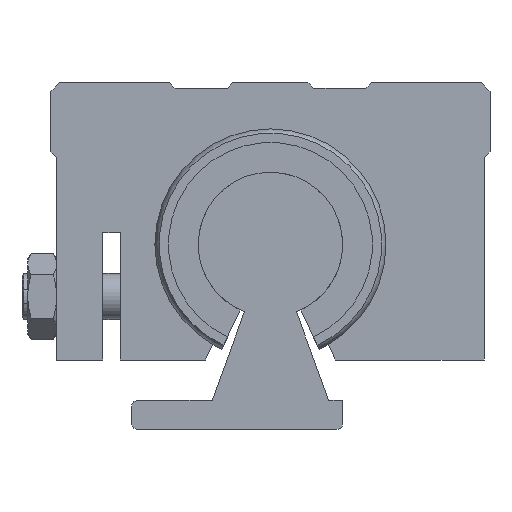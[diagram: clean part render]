
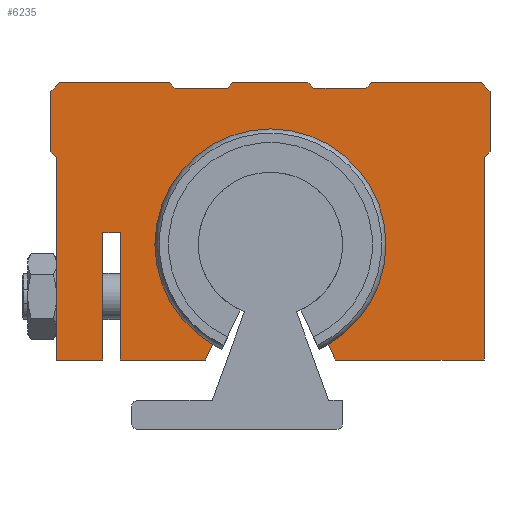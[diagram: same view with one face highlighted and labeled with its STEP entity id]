
A CAD part, left-side view. The second image highlights one B-rep face of the part: STEP entity #6235.
In plain terms, the highlighted planar face has unit normal (-1, 0, 0).
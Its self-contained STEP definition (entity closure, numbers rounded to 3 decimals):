
#4988=CARTESIAN_POINT('',(257.366,-10.0,14.679));
#4989=VERTEX_POINT('',#4988);
#4996=CARTESIAN_POINT('',(257.366,10.0,14.679));
#4997=VERTEX_POINT('',#4996);
#4998=CARTESIAN_POINT('',(257.366,0.0,32.0));
#4999=DIRECTION('',(-1.0,0.0,0.0));
#5000=DIRECTION('',(0.0,-1.0,0.0));
#5001=AXIS2_PLACEMENT_3D('',#4998,#4999,#5000);
#5002=CIRCLE('',#5001,20.0);
#5003=EDGE_CURVE('',#4989,#4997,#5002,.T.);
#5095=CARTESIAN_POINT('',(257.366,-6.5,60.0));
#5096=VERTEX_POINT('',#5095);
#5097=CARTESIAN_POINT('',(257.366,-7.5,59.));
#5098=VERTEX_POINT('',#5097);
#5099=CARTESIAN_POINT('',(257.366,-6.5,60.0));
#5100=DIRECTION('',(0.0,-0.707,-0.707));
#5101=VECTOR('',#5100,1.414);
#5102=LINE('',#5099,#5101);
#5103=EDGE_CURVE('',#5096,#5098,#5102,.T.);
#5136=CARTESIAN_POINT('',(257.366,-16.5,59.));
#5137=VERTEX_POINT('',#5136);
#5138=CARTESIAN_POINT('',(257.366,-7.5,59.));
#5139=DIRECTION('',(0.0,-1.0,0.0));
#5140=VECTOR('',#5139,9.);
#5141=LINE('',#5138,#5140);
#5142=EDGE_CURVE('',#5098,#5137,#5141,.T.);
#5166=CARTESIAN_POINT('',(257.366,17.5,60.0));
#5167=VERTEX_POINT('',#5166);
#5168=CARTESIAN_POINT('',(257.366,16.5,59.));
#5169=VERTEX_POINT('',#5168);
#5170=CARTESIAN_POINT('',(257.366,17.5,60.0));
#5171=DIRECTION('',(0.0,-0.707,-0.707));
#5172=VECTOR('',#5171,1.414);
#5173=LINE('',#5170,#5172);
#5174=EDGE_CURVE('',#5167,#5169,#5173,.T.);
#5207=CARTESIAN_POINT('',(257.366,7.5,59.));
#5208=VERTEX_POINT('',#5207);
#5209=CARTESIAN_POINT('',(257.366,16.5,59.));
#5210=DIRECTION('',(0.0,-1.0,0.0));
#5211=VECTOR('',#5210,9.0);
#5212=LINE('',#5209,#5211);
#5213=EDGE_CURVE('',#5169,#5208,#5212,.T.);
#5237=CARTESIAN_POINT('',(257.366,6.5,60.0));
#5238=VERTEX_POINT('',#5237);
#5239=CARTESIAN_POINT('',(257.366,7.5,59.));
#5240=DIRECTION('',(0.0,-0.707,0.707));
#5241=VECTOR('',#5240,1.414);
#5242=LINE('',#5239,#5241);
#5243=EDGE_CURVE('',#5208,#5238,#5242,.T.);
#5268=CARTESIAN_POINT('',(257.366,-17.5,60.0));
#5269=VERTEX_POINT('',#5268);
#5270=CARTESIAN_POINT('',(257.366,-16.5,59.));
#5271=DIRECTION('',(0.0,-0.707,0.707));
#5272=VECTOR('',#5271,1.414);
#5273=LINE('',#5270,#5272);
#5274=EDGE_CURVE('',#5137,#5269,#5273,.T.);
#5299=CARTESIAN_POINT('',(257.366,37.0,47.0));
#5300=VERTEX_POINT('',#5299);
#5301=CARTESIAN_POINT('',(257.366,38.0,48.));
#5302=VERTEX_POINT('',#5301);
#5303=CARTESIAN_POINT('',(257.366,37.0,47.0));
#5304=DIRECTION('',(0.0,0.707,0.707));
#5305=VECTOR('',#5304,1.414);
#5306=LINE('',#5303,#5305);
#5307=EDGE_CURVE('',#5300,#5302,#5306,.T.);
#5339=CARTESIAN_POINT('',(257.366,-38.0,48.));
#5340=VERTEX_POINT('',#5339);
#5341=CARTESIAN_POINT('',(257.366,-37.0,47.0));
#5342=VERTEX_POINT('',#5341);
#5343=CARTESIAN_POINT('',(257.366,-38.0,48.));
#5344=DIRECTION('',(0.0,0.707,-0.707));
#5345=VECTOR('',#5344,1.414);
#5346=LINE('',#5343,#5345);
#5347=EDGE_CURVE('',#5340,#5342,#5346,.T.);
#5380=CARTESIAN_POINT('',(257.366,-37.0,12.));
#5381=VERTEX_POINT('',#5380);
#5382=CARTESIAN_POINT('',(257.366,-37.0,47.0));
#5383=DIRECTION('',(0.0,0.0,-1.0));
#5384=VECTOR('',#5383,35.);
#5385=LINE('',#5382,#5384);
#5386=EDGE_CURVE('',#5342,#5381,#5385,.T.);
#5420=CARTESIAN_POINT('',(257.366,38.0,58.5));
#5421=VERTEX_POINT('',#5420);
#5428=CARTESIAN_POINT('',(257.366,36.5,60.0));
#5429=VERTEX_POINT('',#5428);
#5430=CARTESIAN_POINT('',(257.366,38.0,58.5));
#5431=DIRECTION('',(0.0,-0.707,0.707));
#5432=VECTOR('',#5431,2.121);
#5433=LINE('',#5430,#5432);
#5434=EDGE_CURVE('',#5421,#5429,#5433,.T.);
#5458=CARTESIAN_POINT('',(257.366,38.0,48.));
#5459=DIRECTION('',(0.0,0.0,1.0));
#5460=VECTOR('',#5459,10.5);
#5461=LINE('',#5458,#5460);
#5462=EDGE_CURVE('',#5302,#5421,#5461,.T.);
#5595=CARTESIAN_POINT('',(257.366,-36.5,60.0));
#5596=VERTEX_POINT('',#5595);
#5603=CARTESIAN_POINT('',(257.366,-38.0,58.5));
#5604=VERTEX_POINT('',#5603);
#5605=CARTESIAN_POINT('',(257.366,-36.5,60.0));
#5606=DIRECTION('',(0.0,-0.707,-0.707));
#5607=VECTOR('',#5606,2.121);
#5608=LINE('',#5605,#5607);
#5609=EDGE_CURVE('',#5596,#5604,#5608,.T.);
#5628=CARTESIAN_POINT('',(257.366,-17.5,60.0));
#5629=DIRECTION('',(0.0,-1.0,0.0));
#5630=VECTOR('',#5629,19.);
#5631=LINE('',#5628,#5630);
#5632=EDGE_CURVE('',#5269,#5596,#5631,.T.);
#5966=CARTESIAN_POINT('',(257.366,37.0,12.));
#5967=VERTEX_POINT('',#5966);
#5974=CARTESIAN_POINT('',(257.366,37.0,12.));
#5975=DIRECTION('',(0.0,0.0,1.0));
#5976=VECTOR('',#5975,35.);
#5977=LINE('',#5974,#5976);
#5978=EDGE_CURVE('',#5967,#5300,#5977,.T.);
#5997=CARTESIAN_POINT('',(257.366,29.,12.));
#5998=VERTEX_POINT('',#5997);
#6005=CARTESIAN_POINT('',(257.366,29.,12.));
#6006=DIRECTION('',(0.0,1.0,0.0));
#6007=VECTOR('',#6006,8.);
#6008=LINE('',#6005,#6007);
#6009=EDGE_CURVE('',#5998,#5967,#6008,.T.);
#6021=CARTESIAN_POINT('',(257.366,29.,34.));
#6022=VERTEX_POINT('',#6021);
#6029=CARTESIAN_POINT('',(257.366,29.,34.));
#6030=DIRECTION('',(0.0,0.0,-1.0));
#6031=VECTOR('',#6030,22.);
#6032=LINE('',#6029,#6031);
#6033=EDGE_CURVE('',#6022,#5998,#6032,.T.);
#6048=CARTESIAN_POINT('',(257.366,26.,34.));
#6049=VERTEX_POINT('',#6048);
#6056=CARTESIAN_POINT('',(257.366,26.,34.));
#6057=DIRECTION('',(0.0,1.0,0.0));
#6058=VECTOR('',#6057,3.);
#6059=LINE('',#6056,#6058);
#6060=EDGE_CURVE('',#6049,#6022,#6059,.T.);
#6072=CARTESIAN_POINT('',(257.366,26.,12.));
#6073=VERTEX_POINT('',#6072);
#6080=CARTESIAN_POINT('',(257.366,26.,12.));
#6081=DIRECTION('',(0.0,0.0,1.0));
#6082=VECTOR('',#6081,22.);
#6083=LINE('',#6080,#6082);
#6084=EDGE_CURVE('',#6073,#6049,#6083,.T.);
#6099=CARTESIAN_POINT('',(257.366,11.249,12.));
#6100=VERTEX_POINT('',#6099);
#6107=CARTESIAN_POINT('',(257.366,11.249,12.));
#6108=DIRECTION('',(0.0,1.0,0.0));
#6109=VECTOR('',#6108,14.751);
#6110=LINE('',#6107,#6109);
#6111=EDGE_CURVE('',#6100,#6073,#6110,.T.);
#6130=CARTESIAN_POINT('',(257.366,10.0,14.679));
#6131=DIRECTION('',(0.0,0.423,-0.906));
#6132=VECTOR('',#6131,2.956);
#6133=LINE('',#6130,#6132);
#6134=EDGE_CURVE('',#4997,#6100,#6133,.T.);
#6146=CARTESIAN_POINT('',(257.366,-11.249,12.));
#6147=VERTEX_POINT('',#6146);
#6154=CARTESIAN_POINT('',(257.366,-11.249,12.));
#6155=DIRECTION('',(0.0,0.423,0.906));
#6156=VECTOR('',#6155,2.956);
#6157=LINE('',#6154,#6156);
#6158=EDGE_CURVE('',#6147,#4989,#6157,.T.);
#6177=CARTESIAN_POINT('',(257.366,-37.0,12.));
#6178=DIRECTION('',(0.0,1.0,0.0));
#6179=VECTOR('',#6178,25.751);
#6180=LINE('',#6177,#6179);
#6181=EDGE_CURVE('',#5381,#6147,#6180,.T.);
#6187=CARTESIAN_POINT('',(257.366,3.2,34.996));
#6188=DIRECTION('',(1.0,0.0,0.0));
#6189=DIRECTION('',(0.0,0.0,-1.0));
#6190=AXIS2_PLACEMENT_3D('',#6187,#6188,#6189);
#6191=PLANE('',#6190);
#6192=ORIENTED_EDGE('',*,*,#5434,.F.);
#6193=ORIENTED_EDGE('',*,*,#5462,.F.);
#6194=ORIENTED_EDGE('',*,*,#5307,.F.);
#6195=ORIENTED_EDGE('',*,*,#5978,.F.);
#6196=ORIENTED_EDGE('',*,*,#6009,.F.);
#6197=ORIENTED_EDGE('',*,*,#6033,.F.);
#6198=ORIENTED_EDGE('',*,*,#6060,.F.);
#6199=ORIENTED_EDGE('',*,*,#6084,.F.);
#6200=ORIENTED_EDGE('',*,*,#6111,.F.);
#6201=ORIENTED_EDGE('',*,*,#6134,.F.);
#6202=ORIENTED_EDGE('',*,*,#5003,.F.);
#6203=ORIENTED_EDGE('',*,*,#6158,.F.);
#6204=ORIENTED_EDGE('',*,*,#6181,.F.);
#6205=ORIENTED_EDGE('',*,*,#5386,.F.);
#6206=ORIENTED_EDGE('',*,*,#5347,.F.);
#6207=CARTESIAN_POINT('',(257.366,-38.0,58.5));
#6208=DIRECTION('',(0.0,0.0,-1.0));
#6209=VECTOR('',#6208,10.5);
#6210=LINE('',#6207,#6209);
#6211=EDGE_CURVE('',#5604,#5340,#6210,.T.);
#6212=ORIENTED_EDGE('',*,*,#6211,.F.);
#6213=ORIENTED_EDGE('',*,*,#5609,.F.);
#6214=ORIENTED_EDGE('',*,*,#5632,.F.);
#6215=ORIENTED_EDGE('',*,*,#5274,.F.);
#6216=ORIENTED_EDGE('',*,*,#5142,.F.);
#6217=ORIENTED_EDGE('',*,*,#5103,.F.);
#6218=CARTESIAN_POINT('',(257.366,6.5,60.0));
#6219=DIRECTION('',(0.0,-1.0,0.0));
#6220=VECTOR('',#6219,13.);
#6221=LINE('',#6218,#6220);
#6222=EDGE_CURVE('',#5238,#5096,#6221,.T.);
#6223=ORIENTED_EDGE('',*,*,#6222,.F.);
#6224=ORIENTED_EDGE('',*,*,#5243,.F.);
#6225=ORIENTED_EDGE('',*,*,#5213,.F.);
#6226=ORIENTED_EDGE('',*,*,#5174,.F.);
#6227=CARTESIAN_POINT('',(257.366,36.5,60.0));
#6228=DIRECTION('',(0.0,-1.0,0.0));
#6229=VECTOR('',#6228,19.0);
#6230=LINE('',#6227,#6229);
#6231=EDGE_CURVE('',#5429,#5167,#6230,.T.);
#6232=ORIENTED_EDGE('',*,*,#6231,.F.);
#6233=EDGE_LOOP('',(#6192,#6193,#6194,#6195,#6196,#6197,#6198,#6199,#6200,#6201,#6202,#6203,#6204,#6205,#6206,#6212,#6213,#6214,#6215,#6216,#6217,#6223,#6224,#6225,#6226,#6232));
#6234=FACE_OUTER_BOUND('',#6233,.T.);
#6235=ADVANCED_FACE('',(#6234),#6191,.F.);
